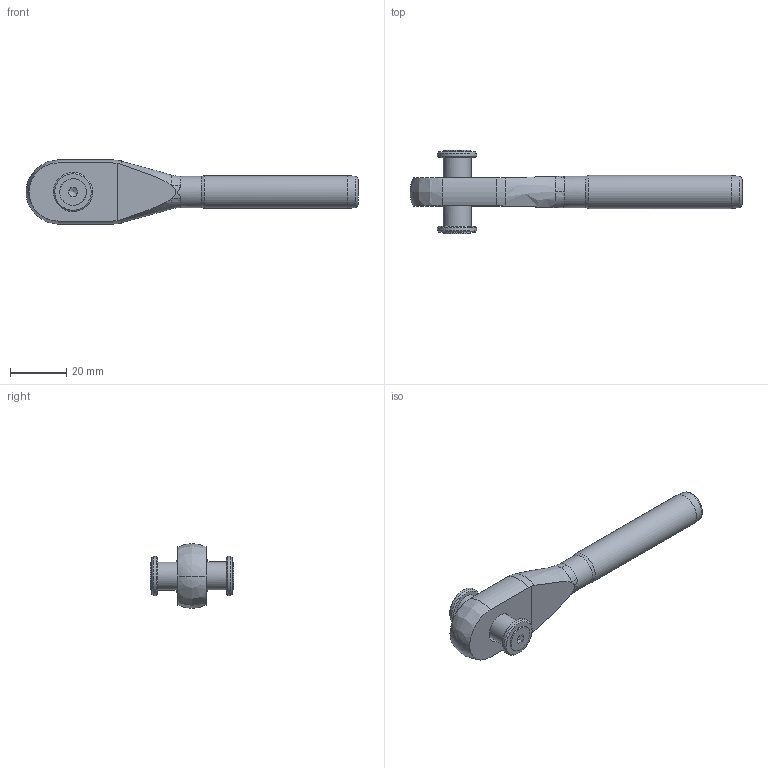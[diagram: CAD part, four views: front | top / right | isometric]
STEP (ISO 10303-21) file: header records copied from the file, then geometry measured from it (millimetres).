
FILE_DESCRIPTION(/* description */ (''),/* implementation_level */ '2;1');
FILE_NAME(/* name */ 'MCC 06_1,4418',/* time_stamp */ '2023-05-23T15:40:29+02:00',/* author */ (''),/* organization */ (''),/* preprocessor_version */ 'ST-DEVELOPER v16.5',/* originating_system */ 'Rhino 7.22',/* authorisation */ '');
FILE_SCHEMA (('CONFIG_CONTROL_DESIGN'));
Length unit declared in the file: millimetre
Products named in the file (1): Document
Bounding box: 118.5 x 29.96 x 23 mm (x, y, z)
Volume: 18669.3 mm3; surface area: 8091.4 mm2
Topology: 6 solids, 6 shells, 74 faces, 203 edges, 135 vertices
Faces by surface type: bspline 31, plane 27, cylinder 16
Full cylindrical faces by diameter (mm): 4.134 x2, 5 x2, 5.5 x2, 9.43 x2, 10 x1, 11 x1, 11.2 x1, 11.8 x1, 14 x2
Entity records: 3210 total; most frequent: CARTESIAN_POINT 1955, ORIENTED_EDGE 386, EDGE_CURVE 193, VERTEX_POINT 135, EDGE_LOOP 84, ADVANCED_FACE 74, FACE_OUTER_BOUND 74, B_SPLINE_CURVE_WITH_KNOTS 64
